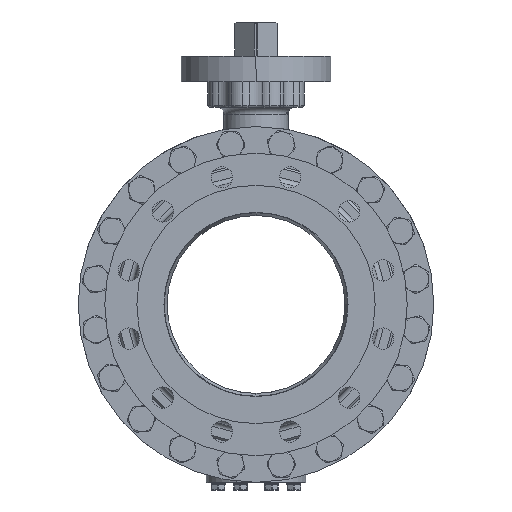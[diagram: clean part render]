
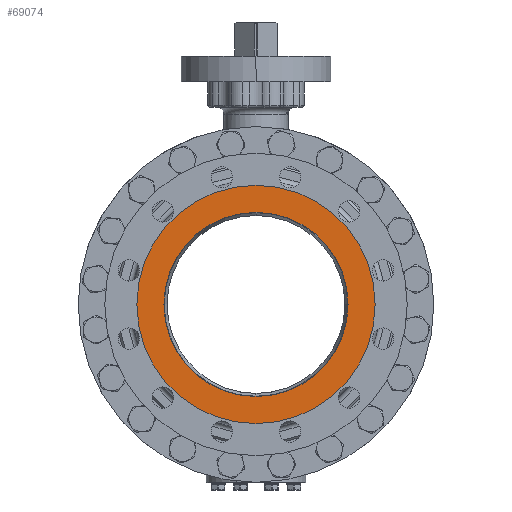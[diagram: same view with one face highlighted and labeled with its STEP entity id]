
A CAD part, left-side view. The second image highlights one B-rep face of the part: STEP entity #69074.
In plain terms, the highlighted planar face has unit normal (-1, 0, 0).
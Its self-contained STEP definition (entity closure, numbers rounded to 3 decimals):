
#3454=CARTESIAN_POINT('',(-266.5,0.,0.));
#3455=DIRECTION('',(1.,0.,0.));
#3456=DIRECTION('',(0.,0.,1.));
#3457=AXIS2_PLACEMENT_3D('',#3454,#3455,#3456);
#3459=CARTESIAN_POINT('',(-266.5,0.,0.));
#3460=DIRECTION('',(1.,0.,0.));
#3461=DIRECTION('',(0.,0.,-1.));
#3462=AXIS2_PLACEMENT_3D('',#3459,#3460,#3461);
#3464=CARTESIAN_POINT('',(-266.5,0.,0.));
#3465=DIRECTION('',(1.,0.,0.));
#3466=DIRECTION('',(0.,0.,1.));
#3467=AXIS2_PLACEMENT_3D('',#3464,#3465,#3466);
#3469=CARTESIAN_POINT('',(-266.5,0.,0.));
#3470=DIRECTION('',(-1.,0.,0.));
#3471=DIRECTION('',(0.,0.,1.));
#3472=AXIS2_PLACEMENT_3D('',#3469,#3470,#3471);
#58500=CARTESIAN_POINT('',(-266.5,0.,129.4));
#58502=VERTEX_POINT('',#58500);
#58504=CARTESIAN_POINT('',(-266.5,0.,-129.4));
#58506=VERTEX_POINT('',#58504);
#58535=CARTESIAN_POINT('',(-266.5,0.,167.5));
#58536=CARTESIAN_POINT('',(-266.5,0.,-167.5));
#58537=VERTEX_POINT('',#58535);
#58538=VERTEX_POINT('',#58536);
#69058=CARTESIAN_POINT('',(-266.5,0.,0.));
#69059=DIRECTION('',(-1.,0.,0.));
#69060=DIRECTION('',(0.,0.,-1.));
#69061=AXIS2_PLACEMENT_3D('',#69058,#69059,#69060);
#69062=PLANE('',#69061);
#69064=ORIENTED_EDGE('',*,*,#69063,.T.);
#69065=ORIENTED_EDGE('',*,*,#69048,.T.);
#69066=EDGE_LOOP('',(#69064,#69065));
#69067=FACE_OUTER_BOUND('',#69066,.F.);
#69069=ORIENTED_EDGE('',*,*,#69068,.F.);
#69071=ORIENTED_EDGE('',*,*,#69070,.T.);
#69072=EDGE_LOOP('',(#69069,#69071));
#69073=FACE_BOUND('',#69072,.F.);
#69074=ADVANCED_FACE('',(#69067,#69073),#69062,.T.);
#3458=CIRCLE('',#3457,167.5);
#3463=CIRCLE('',#3462,167.5);
#3468=CIRCLE('',#3467,129.4);
#3473=CIRCLE('',#3472,129.4);
#69048=EDGE_CURVE('',#58538,#58537,#3463,.T.);
#69063=EDGE_CURVE('',#58537,#58538,#3458,.T.);
#69068=EDGE_CURVE('',#58502,#58506,#3468,.T.);
#69070=EDGE_CURVE('',#58502,#58506,#3473,.T.);
